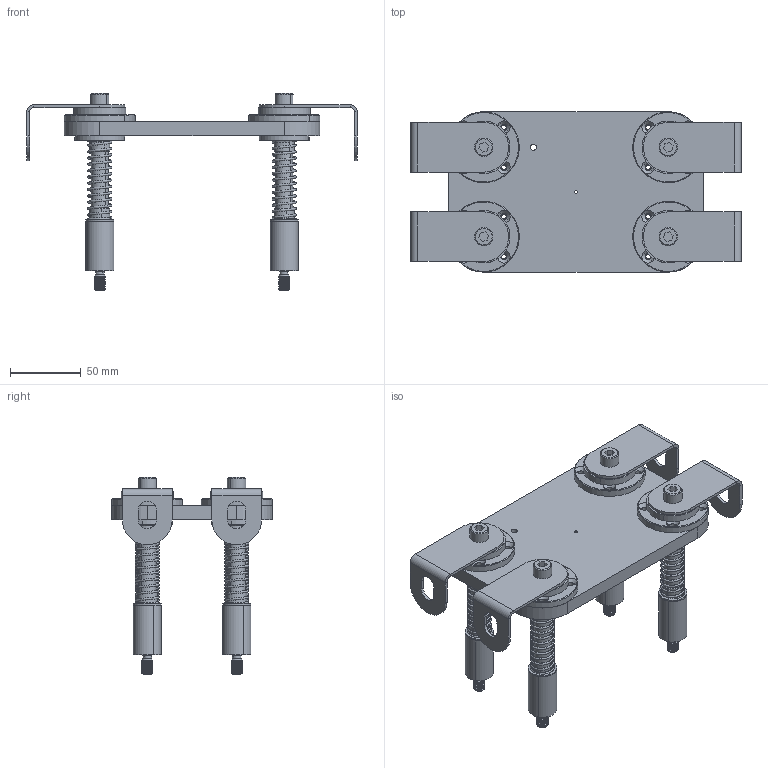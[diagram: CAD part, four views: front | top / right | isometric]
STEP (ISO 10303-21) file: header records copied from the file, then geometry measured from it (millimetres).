
FILE_DESCRIPTION (( 'STEP AP203' ), '1' );
FILE_NAME ('Floating attachment 130x63.STEP', '2020-04-07T04:44:08', ( '' ), ( '' ), 'SwSTEP 2.0', 'SolidWorks 2019', '' );
FILE_SCHEMA (( 'CONFIG_CONTROL_DESIGN' ));
Length unit declared in the file: millimetre
Products named in the file (1): Floating attachment 130x63
Bounding box: 233 x 113 x 139 mm (x, y, z)
Surface area: 142340.3 mm2 (no closed solid volume)
Topology: 0 solids, 42 shells, 608 faces, 1646 edges, 1092 vertices
Faces by surface type: cylinder 288, plane 148, cone 88, bspline 44, torus 40
Entity records: 51524 total; most frequent: CARTESIAN_POINT 36433, DIRECTION 3210, ORIENTED_EDGE 2980, EDGE_CURVE 1646, AXIS2_PLACEMENT_3D 1293, VERTEX_POINT 1092, EDGE_LOOP 735, CIRCLE 728
